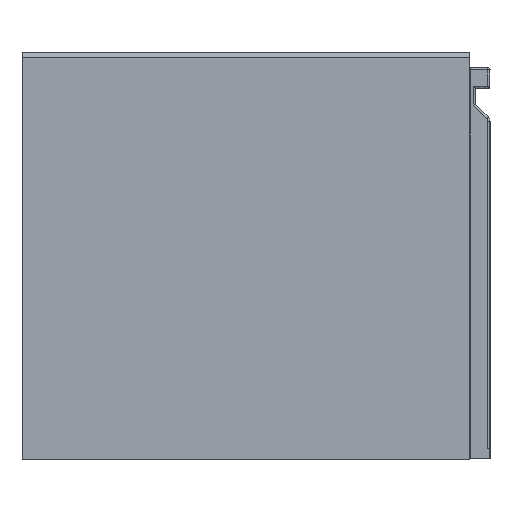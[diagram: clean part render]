
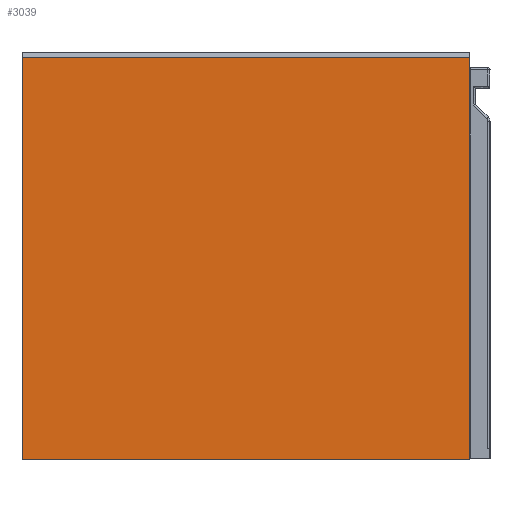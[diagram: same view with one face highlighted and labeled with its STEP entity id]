
A CAD part, left-side view. The second image highlights one B-rep face of the part: STEP entity #3039.
In plain terms, the highlighted planar face has unit normal (-1, 0, 0).
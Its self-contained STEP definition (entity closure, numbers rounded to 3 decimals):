
#3039=ADVANCED_FACE('',(#4731),#28895,.T.);
#4731=FACE_OUTER_BOUND('',#6465,.T.);
#6465=EDGE_LOOP('',(#9878,#9879,#9880,#9881));
#9878=ORIENTED_EDGE('',*,*,#18247,.F.);
#9879=ORIENTED_EDGE('',*,*,#18248,.T.);
#9880=ORIENTED_EDGE('',*,*,#18249,.T.);
#9881=ORIENTED_EDGE('',*,*,#18250,.T.);
#18247=EDGE_CURVE('',#26127,#26124,#22711,.T.);
#18248=EDGE_CURVE('',#26127,#26128,#22712,.T.);
#18249=EDGE_CURVE('',#26128,#26129,#22713,.T.);
#18250=EDGE_CURVE('',#26129,#26124,#22714,.T.);
#22711=B_SPLINE_CURVE_WITH_KNOTS('',1,(#37952,#37953),.UNSPECIFIED.,.F.,
 .F.,(2,2),(0.,430.),.UNSPECIFIED.);
#22712=B_SPLINE_CURVE_WITH_KNOTS('',1,(#37954,#37955),.UNSPECIFIED.,.F.,
 .F.,(2,2),(-387.,0.),.UNSPECIFIED.);
#22713=B_SPLINE_CURVE_WITH_KNOTS('',1,(#37956,#37957),.UNSPECIFIED.,.F.,
 .F.,(2,2),(-430.,0.),.UNSPECIFIED.);
#22714=B_SPLINE_CURVE_WITH_KNOTS('',1,(#37958,#37959),.UNSPECIFIED.,.F.,
 .F.,(2,2),(0.,387.),.UNSPECIFIED.);
#26124=VERTEX_POINT('',#37936);
#26127=VERTEX_POINT('',#37939);
#26128=VERTEX_POINT('',#37940);
#26129=VERTEX_POINT('',#37941);
#28895=PLANE('',#31153);
#31153=AXIS2_PLACEMENT_3D('',#37930,#32543,$);
#32543=DIRECTION('',(-1.,0.,0.));
#37930=CARTESIAN_POINT('',(-7839.826,-10876.937,-1904.111));
#37936=CARTESIAN_POINT('',(-7839.826,-10833.817,-1478.291));
#37939=CARTESIAN_POINT('',(-7839.826,-10403.817,-1478.291));
#37940=CARTESIAN_POINT('',(-7839.826,-10403.817,-1865.291));
#37941=CARTESIAN_POINT('',(-7839.826,-10833.817,-1865.291));
#37952=CARTESIAN_POINT('',(-7839.826,-10403.817,-1478.291));
#37953=CARTESIAN_POINT('',(-7839.826,-10833.817,-1478.291));
#37954=CARTESIAN_POINT('',(-7839.826,-10403.817,-1478.291));
#37955=CARTESIAN_POINT('',(-7839.826,-10403.817,-1865.291));
#37956=CARTESIAN_POINT('',(-7839.826,-10403.817,-1865.291));
#37957=CARTESIAN_POINT('',(-7839.826,-10833.817,-1865.291));
#37958=CARTESIAN_POINT('',(-7839.826,-10833.817,-1865.291));
#37959=CARTESIAN_POINT('',(-7839.826,-10833.817,-1478.291));
